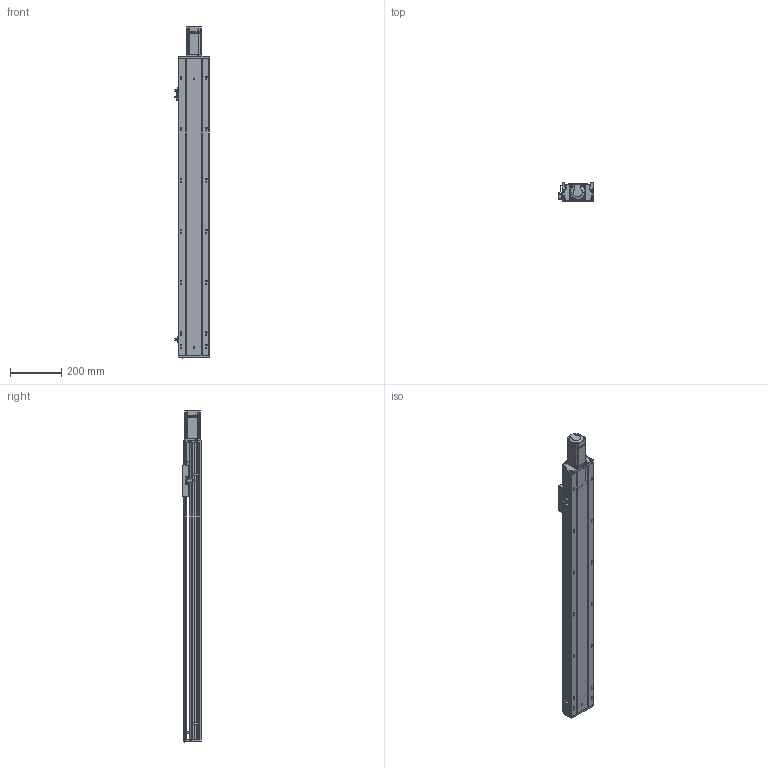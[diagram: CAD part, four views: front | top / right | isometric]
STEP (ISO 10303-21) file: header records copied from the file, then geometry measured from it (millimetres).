
FILE_DESCRIPTION (( 'STEP AP203' ), '1' );
FILE_NAME ('RY120Q-L1610-500-MK.SLDASM_0900.step', '2021-05-19T01:45:30', ( '盈信电脑' ), ( '东莞市道滘镇水果街19号' ), 'SwSTEP 2.0', 'SolidWorks 2016', '' );
FILE_SCHEMA (( 'CONFIG_CONTROL_DESIGN' ));
Length unit declared in the file: millimetre
Products named in the file (14): RY120铝滑块16丝杆（FK12）; RY120QGB-1.8; RY120-500-MK倰第奻裔啣_0900; RY120綴裔啣; 滅袉蝶18-15; RY120萇儂釱FK12; 15; 覜茼ん672; RY120Q-L1610-500-MK.SLDASM_0900; 鞠褒坶踡蹟譫BK12 ; 滅袉蝶18-10; 侂狟400W侜督萇儂; RY120-500-MK倰第菁釱_0900; RY120外置感应片(140共用）
Assembly tree (16 placements, depth 3):
  RY120Q-L1610-500-MK.SLDASM_0900
    RY120-500-MK倰第菁釱_0900
    RY120-500-MK倰第奻裔啣_0900
    侂狟400W侜督萇儂
      15
    鞠褒坶踡蹟譫BK12 
    RY120綴裔啣
    覜茼ん672  x3
    滅袉蝶18-10
    滅袉蝶18-15  x2
    RY120外置感应片(140共用）
    RY120QGB-1.8
    RY120铝滑块16丝杆（FK12）
    RY120萇儂釱FK12
Bounding box: 135.7 x 74 x 1298.5 mm (x, y, z)
Volume: 3405618.7 mm3; surface area: 1205126 mm2
Topology: 16 solids, 16 shells, 2306 faces, 6343 edges, 4040 vertices
Faces by surface type: plane 1029, cylinder 917, cone 259, bspline 101
Entity records: 76183 total; most frequent: CARTESIAN_POINT 21495, ORIENTED_EDGE 11382, DIRECTION 10699, EDGE_CURVE 5691, VERTEX_POINT 3708, AXIS2_PLACEMENT_3D 3704, VECTOR 3291, LINE 3291
